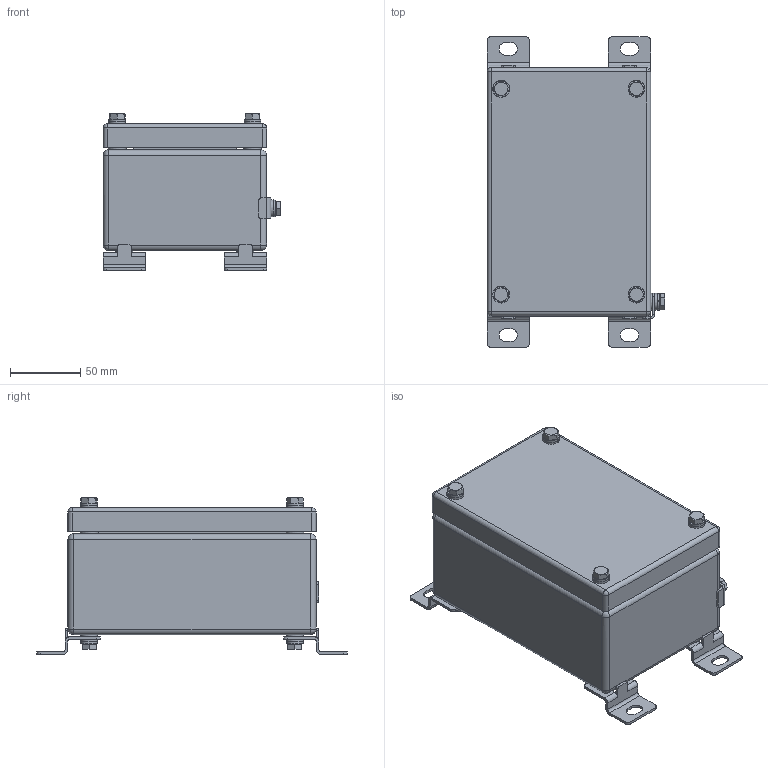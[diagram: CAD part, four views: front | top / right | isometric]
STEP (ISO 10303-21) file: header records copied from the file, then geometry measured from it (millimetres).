
FILE_DESCRIPTION((''),'2;1');
FILE_NAME('\\192.168.5.25\cortem_klient\INVENTOR БАЗА МОДЕЛЕЙ\Актуальная база моделей для отдела продаж\КСРВ-Н\КСРВ-Н171109_М5.stp','2019-04-09T14:06:44',('A.S.Kozlov'),(''),'Autodesk Inventor 2012','Autodesk Inventor 2012','');
FILE_SCHEMA(('CONFIG_CONTROL_DESIGN'));
Length unit declared in the file: millimetre
Products named in the file (1): КСРВ-(параметрическая модель)_Внешний контур_1
Bounding box: 126.2 x 220 x 111.2 mm (x, y, z)
Surface area: 155067.5 mm2 (no closed solid volume)
Topology: 0 solids, 59 shells, 349 faces, 1060 edges, 724 vertices
Faces by surface type: plane 190, cylinder 123, cone 24, sphere 12
Full cylindrical faces by diameter (mm): 5 x1, 5.459 x1, 9 x2, 10 x4, 12 x14, 12.7 x4
Entity records: 12211 total; most frequent: CARTESIAN_POINT 2253, DIRECTION 2012, ORIENTED_EDGE 1711, EDGE_CURVE 1019, AXIS2_PLACEMENT_3D 727, VERTEX_POINT 716, VECTOR 558, LINE 558
